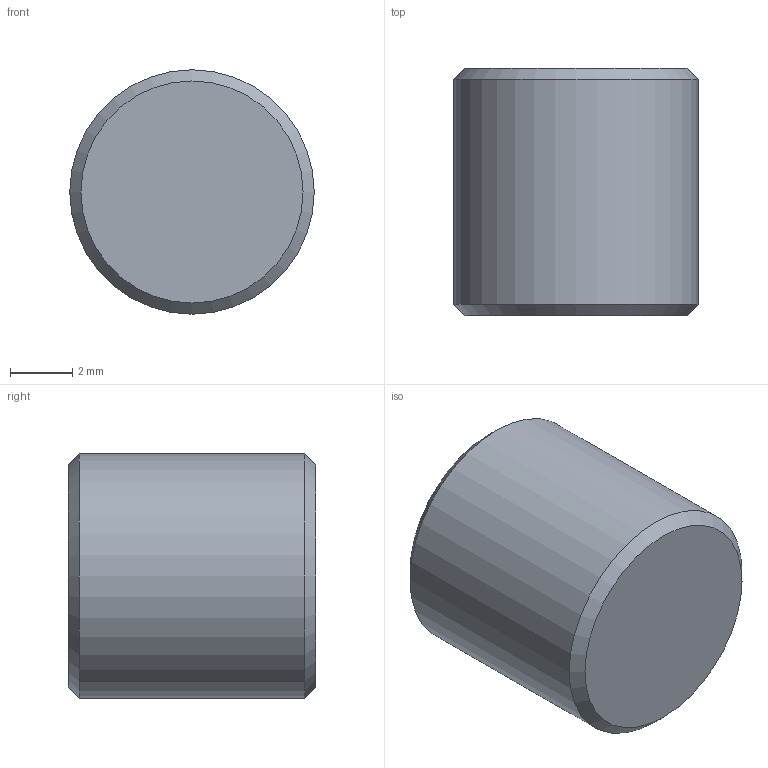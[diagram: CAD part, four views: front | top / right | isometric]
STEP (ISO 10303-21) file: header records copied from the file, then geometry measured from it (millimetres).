
FILE_DESCRIPTION(/* description */ (''),/* implementation_level */ '2;1');
FILE_NAME(/* name */ 'C:/Users/drich/Desktop/cad/Plugs/NPT Pipe Plugs/Dry Seal 3_4 Taper/Stainless Steel/SSD-16 v1.step',/* time_stamp */ '2020-01-10T11:34:17-06:00',/* author */ (''),/* organization */ (''),/* preprocessor_version */ 'ST-DEVELOPER v18',/* originating_system */ 'Autodesk Translation Framework v8.12.0.6',/* authorisation */ '');
FILE_SCHEMA (('AUTOMOTIVE_DESIGN { 1 0 10303 214 3 1 1 }'));
Length unit declared in the file: inch
Products named in the file (1): SSD-16
Bounding box: 7.83 x 7.92 x 7.83 mm (x, y, z)
Volume: 323.8 mm3; surface area: 332.5 mm2
Topology: 1 solids, 1 shells, 13 faces, 35 edges, 25 vertices
Faces by surface type: plane 9, cone 3, cylinder 1
Full cylindrical faces by diameter (mm): 7.828 x1
Entity records: 439 total; most frequent: CARTESIAN_POINT 98, ORIENTED_EDGE 70, DIRECTION 58, EDGE_CURVE 35, VERTEX_POINT 25, AXIS2_PLACEMENT_3D 21, LINE 16, VECTOR 16
